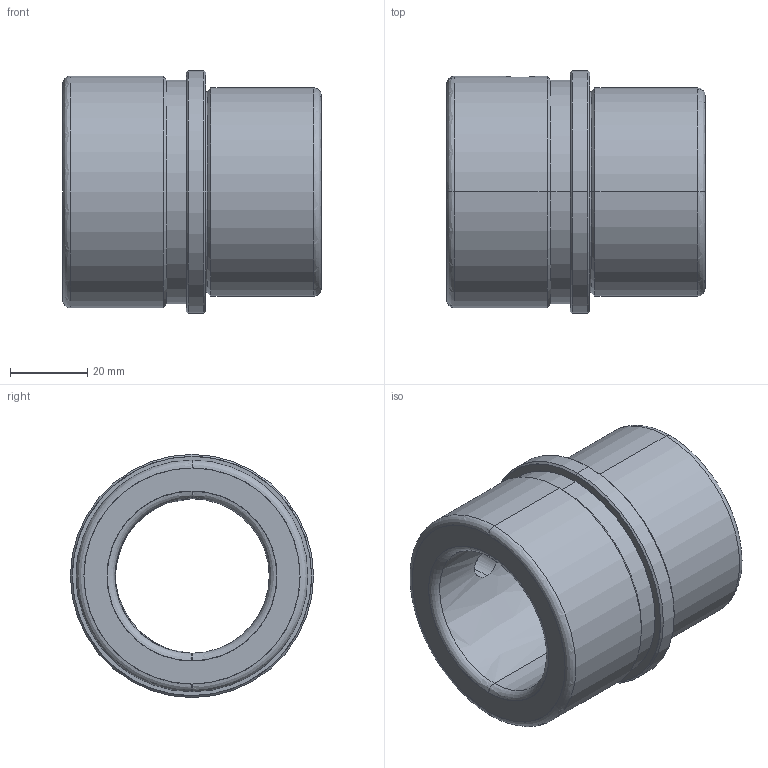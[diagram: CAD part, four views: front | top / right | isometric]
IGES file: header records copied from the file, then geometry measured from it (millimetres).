
Start section: START RECORD GO HERE.
Global section: file name: FAMO-SF1-C40 x 67.igs; native system: DASSAULT SYSTEMES CATIA V5 R20 - www.3ds.com; preprocessor: CATIA Version 5 Release 20 ; author: Utente; organization: NB04-ASUS; date: 20210106.175025; units: millimetre
Bounding box: 67 x 63 x 63 mm (x, y, z)
Surface area: 24459.5 mm2 (no closed solid volume)
Topology: 0 solids, 0 shells, 37 faces, 252 edges, 252 vertices
Faces by surface type: revolution 32, plane 5
